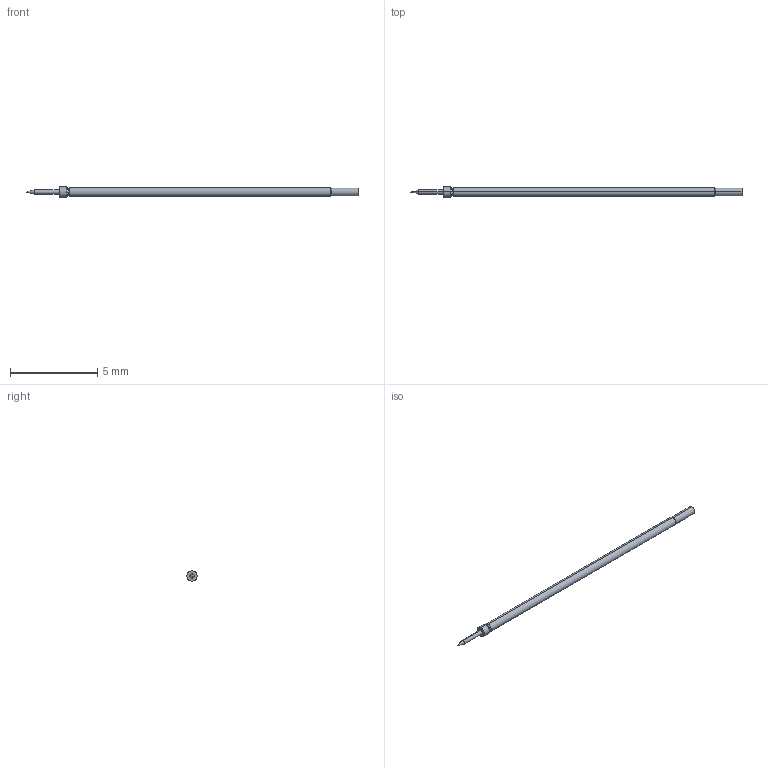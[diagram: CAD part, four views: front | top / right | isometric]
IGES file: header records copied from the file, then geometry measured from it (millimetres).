
Start section: SolidWorks IGES file using analytic representation for surfaces
Global section: file name: Z:\probe solid model mockups\Solidworks models\MEP-20 IGS files\MEP-20B.IGS; native system: SolidWorks 2006 by SolidWorks Corporation; preprocessor: SolidWorks 2006 by SolidWorks Corporation; author: tsakatani; date: 071219.112614; units: inch
Bounding box: 19.05 x 0.58 x 0.58 mm (x, y, z)
Surface area: 29 mm2 (no closed solid volume)
Topology: 0 solids, 0 shells, 20 faces, 120 edges, 118 vertices
Faces by surface type: revolution 14, bspline 6
